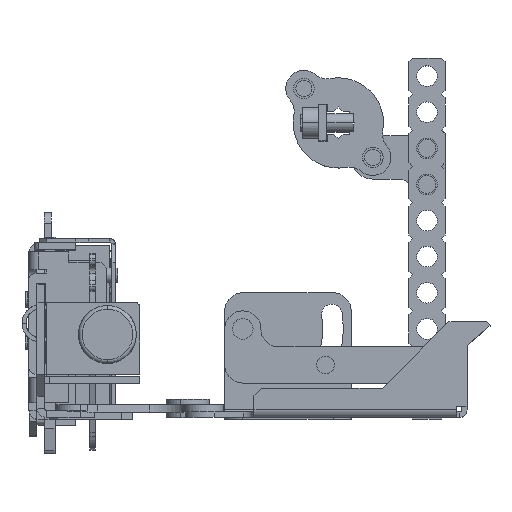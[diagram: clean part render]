
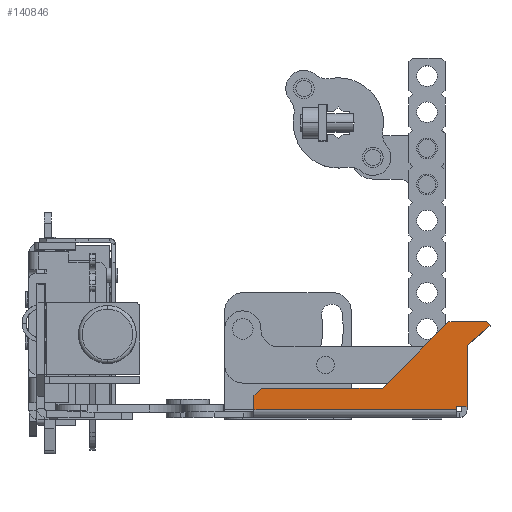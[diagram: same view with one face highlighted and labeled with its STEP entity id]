
A CAD part, top view. The second image highlights one B-rep face of the part: STEP entity #140846.
In plain terms, the highlighted planar face has unit normal (0, 0, 1) as drawn and (-1, 0, 0) by its records, which use the part's own axes.
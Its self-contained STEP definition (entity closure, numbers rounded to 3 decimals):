
#137461=CARTESIAN_POINT(' ',(-1.5,1.5,26.5));
#137462=VERTEX_POINT(' ',#137461);
#137476=CARTESIAN_POINT(' ',(-1.5,1.5,26.5));
#137481=DIRECTION(' ',(0.,-1.,0.));
#137486=VECTOR(' ',#137481,1.);
#137491=LINE('',#137476,#137486);
#137496=CARTESIAN_POINT(' ',(-1.5,0.6,26.5));
#137497=VERTEX_POINT(' ',#137496);
#137501=EDGE_CURVE(' ',#137462,#137497,#137491,.T.);
#137606=CARTESIAN_POINT(' ',(-1.5,0.6,26.5));
#137611=DIRECTION(' ',(0.,0.,-1.));
#137616=VECTOR(' ',#137611,1.);
#137621=LINE('',#137606,#137616);
#137626=CARTESIAN_POINT(' ',(-1.5,0.6,-29.5));
#137627=VERTEX_POINT(' ',#137626);
#137631=EDGE_CURVE(' ',#137497,#137627,#137621,.T.);
#137716=CARTESIAN_POINT(' ',(-1.5,4.5,-29.5));
#137721=DIRECTION(' ',(0.,-1.,0.));
#137726=VECTOR(' ',#137721,1.);
#137731=LINE('',#137716,#137726);
#137736=CARTESIAN_POINT(' ',(-1.5,4.5,-29.5));
#137737=VERTEX_POINT(' ',#137736);
#137741=EDGE_CURVE(' ',#137737,#137627,#137731,.T.);
#140486=CARTESIAN_POINT(' ',(-1.5,1.5,29.5));
#140487=VERTEX_POINT(' ',#140486);
#140501=CARTESIAN_POINT(' ',(-1.5,1.5,29.5));
#140506=DIRECTION(' ',(0.,0.,-1.));
#140511=VECTOR(' ',#140506,1.);
#140516=LINE('',#140501,#140511);
#140521=EDGE_CURVE(' ',#140487,#137462,#140516,.T.);
#140551=DIRECTION(' ',(-1.,0.,0.));
#140556=CARTESIAN_POINT(' ',(-1.5,0.6,-29.5));
#140561=DIRECTION(' ',(0.,0.,1.));
#140566=AXIS2_PLACEMENT_3D(' ',#140556,#140551,#140561);
#140571=PLANE('NONE',#140566);
#140576=CARTESIAN_POINT(' ',(-1.5,6.5,-27.5));
#140581=DIRECTION(' ',(0.,0.,1.));
#140586=VECTOR(' ',#140581,1.);
#140591=LINE('',#140576,#140586);
#140596=CARTESIAN_POINT(' ',(-1.5,6.5,-27.5));
#140597=VERTEX_POINT(' ',#140596);
#140601=CARTESIAN_POINT(' ',(-1.5,6.5,6.));
#140602=VERTEX_POINT(' ',#140601);
#140606=EDGE_CURVE(' ',#140597,#140602,#140591,.T.);
#140611=ORIENTED_EDGE(' ',*,*,#140606,.F.);
#140616=CARTESIAN_POINT(' ',(-1.5,6.5,-27.5));
#140621=DIRECTION(' ',(0.,-0.707,-0.707));
#140626=VECTOR(' ',#140621,1.);
#140631=LINE('',#140616,#140626);
#140636=EDGE_CURVE(' ',#140597,#137737,#140631,.T.);
#140641=ORIENTED_EDGE(' ',*,*,#140636,.T.);
#140646=ORIENTED_EDGE(' ',*,*,#137741,.T.);
#140651=ORIENTED_EDGE(' ',*,*,#137631,.F.);
#140656=ORIENTED_EDGE(' ',*,*,#137501,.F.);
#140661=ORIENTED_EDGE(' ',*,*,#140521,.F.);
#140666=CARTESIAN_POINT(' ',(-1.5,18.5,29.5));
#140671=DIRECTION(' ',(0.,-1.,0.));
#140676=VECTOR(' ',#140671,1.);
#140681=LINE('',#140666,#140676);
#140686=CARTESIAN_POINT(' ',(-1.5,18.5,29.5));
#140687=VERTEX_POINT(' ',#140686);
#140691=EDGE_CURVE(' ',#140687,#140487,#140681,.T.);
#140696=ORIENTED_EDGE(' ',*,*,#140691,.F.);
#140701=CARTESIAN_POINT(' ',(-1.5,18.5,29.5));
#140706=DIRECTION(' ',(0.,0.643,0.766));
#140711=VECTOR(' ',#140706,1.);
#140716=LINE('',#140701,#140711);
#140721=CARTESIAN_POINT(' ',(-1.5,23.835,35.859));
#140722=VERTEX_POINT(' ',#140721);
#140726=EDGE_CURVE(' ',#140687,#140722,#140716,.T.);
#140731=ORIENTED_EDGE(' ',*,*,#140726,.T.);
#140736=CARTESIAN_POINT(' ',(-1.5,23.835,35.859));
#140741=DIRECTION(' ',(0.,0.766,-0.643));
#140746=VECTOR(' ',#140741,1.);
#140751=LINE('',#140736,#140746);
#140756=CARTESIAN_POINT(' ',(-1.5,25.,34.881));
#140757=VERTEX_POINT(' ',#140756);
#140761=EDGE_CURVE(' ',#140722,#140757,#140751,.T.);
#140766=ORIENTED_EDGE(' ',*,*,#140761,.T.);
#140771=CARTESIAN_POINT(' ',(-1.5,25.,34.881));
#140776=DIRECTION(' ',(0.,0.,-1.));
#140781=VECTOR(' ',#140776,1.);
#140786=LINE('',#140771,#140781);
#140791=CARTESIAN_POINT(' ',(-1.5,25.,24.5));
#140792=VERTEX_POINT(' ',#140791);
#140796=EDGE_CURVE(' ',#140757,#140792,#140786,.T.);
#140801=ORIENTED_EDGE(' ',*,*,#140796,.T.);
#140806=CARTESIAN_POINT(' ',(-1.5,6.5,6.));
#140811=DIRECTION(' ',(0.,0.707,0.707));
#140816=VECTOR(' ',#140811,1.);
#140821=LINE('',#140806,#140816);
#140826=EDGE_CURVE(' ',#140602,#140792,#140821,.T.);
#140831=ORIENTED_EDGE(' ',*,*,#140826,.F.);
#140836=EDGE_LOOP(' ',(#140611,#140641,#140646,#140651,#140656,#140661,#140696,#140731,#140766,#140801,#140831));
#140841=FACE_OUTER_BOUND(' ',#140836,.T.);
#140846=ADVANCED_FACE('NONE',(#140841),#140571,.T.);
